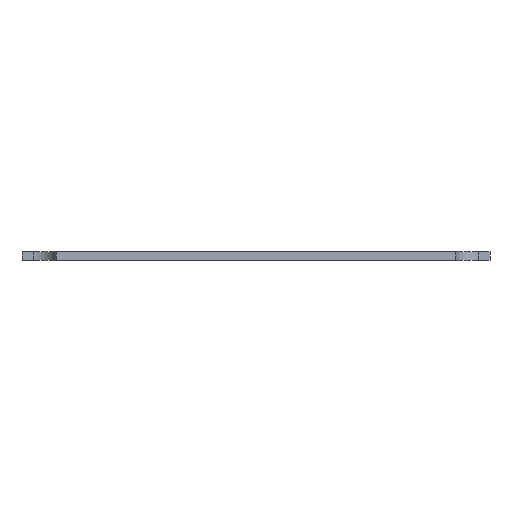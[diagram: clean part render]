
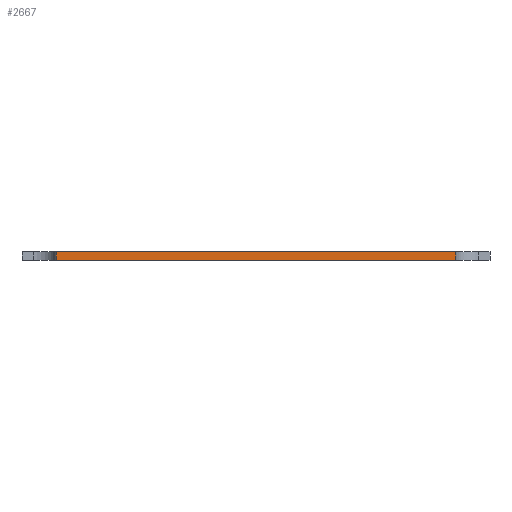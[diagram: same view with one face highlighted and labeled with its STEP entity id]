
A CAD part, front view. The second image highlights one B-rep face of the part: STEP entity #2667.
In plain terms, the highlighted planar face has unit normal (0, -1, 0).
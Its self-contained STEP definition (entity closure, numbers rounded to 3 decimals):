
#478 = EDGE_CURVE ( 'NONE', #7256, #3178, #15258, .T. ) ;
#554 = ORIENTED_EDGE ( 'NONE', *, *, #18431, .T. ) ;
#822 = CARTESIAN_POINT ( 'NONE',  ( -13.15, -6., -0.215 ) ) ;
#893 = LINE ( 'NONE', #16412, #15251 ) ;
#1308 = CARTESIAN_POINT ( 'NONE',  ( 10.4, -6., -0.215 ) ) ;
#2667 = ADVANCED_FACE ( 'NONE', ( #24297 ), #2997, .T. ) ;
#2959 = LINE ( 'NONE', #16428, #20266 ) ;
#2997 = PLANE ( 'NONE',  #21060 ) ;
#3178 = VERTEX_POINT ( 'NONE', #25153 ) ;
#3309 = ORIENTED_EDGE ( 'NONE', *, *, #14920, .F. ) ;
#3699 = ORIENTED_EDGE ( 'NONE', *, *, #7764, .T. ) ;
#3777 = CARTESIAN_POINT ( 'NONE',  ( -13.15, -6., -0.215 ) ) ;
#4038 = LINE ( 'NONE', #3777, #21876 ) ;
#4126 = EDGE_LOOP ( 'NONE', ( #3309, #13000, #3699, #554 ) ) ;
#7256 = VERTEX_POINT ( 'NONE', #11942 ) ;
#7485 = VERTEX_POINT ( 'NONE', #1308 ) ;
#7764 = EDGE_CURVE ( 'NONE', #7256, #21018, #893, .T. ) ;
#10030 = VECTOR ( 'NONE', #17305, 1000. ) ;
#11942 = CARTESIAN_POINT ( 'NONE',  ( -10.4, -6., 0.215 ) ) ;
#12613 = DIRECTION ( 'NONE',  ( 0., -1., 0. ) ) ;
#13000 = ORIENTED_EDGE ( 'NONE', *, *, #478, .F. ) ;
#13077 = CARTESIAN_POINT ( 'NONE',  ( -10.4, -6., -0.215 ) ) ;
#14920 = EDGE_CURVE ( 'NONE', #3178, #7485, #2959, .T. ) ;
#15251 = VECTOR ( 'NONE', #23992, 1000. ) ;
#15258 = LINE ( 'NONE', #17439, #10030 ) ;
#16412 = CARTESIAN_POINT ( 'NONE',  ( -10.4, -6., 0.215 ) ) ;
#16428 = CARTESIAN_POINT ( 'NONE',  ( 10.4, -6., 0.215 ) ) ;
#17305 = DIRECTION ( 'NONE',  ( 1., 0., 0. ) ) ;
#17439 = CARTESIAN_POINT ( 'NONE',  ( -13.15, -6., 0.215 ) ) ;
#18431 = EDGE_CURVE ( 'NONE', #21018, #7485, #4038, .T. ) ;
#19554 = DIRECTION ( 'NONE',  ( 1., 0., 0. ) ) ;
#20266 = VECTOR ( 'NONE', #22594, 1000. ) ;
#21018 = VERTEX_POINT ( 'NONE', #13077 ) ;
#21060 = AXIS2_PLACEMENT_3D ( 'NONE', #822, #12613, #22631 ) ;
#21876 = VECTOR ( 'NONE', #19554, 1000. ) ;
#22594 = DIRECTION ( 'NONE',  ( 0., 0., -1. ) ) ;
#22631 = DIRECTION ( 'NONE',  ( 0., 0., -1. ) ) ;
#23992 = DIRECTION ( 'NONE',  ( 0., 0., -1. ) ) ;
#24297 = FACE_OUTER_BOUND ( 'NONE', #4126, .T. ) ;
#25153 = CARTESIAN_POINT ( 'NONE',  ( 10.4, -6., 0.215 ) ) ;
